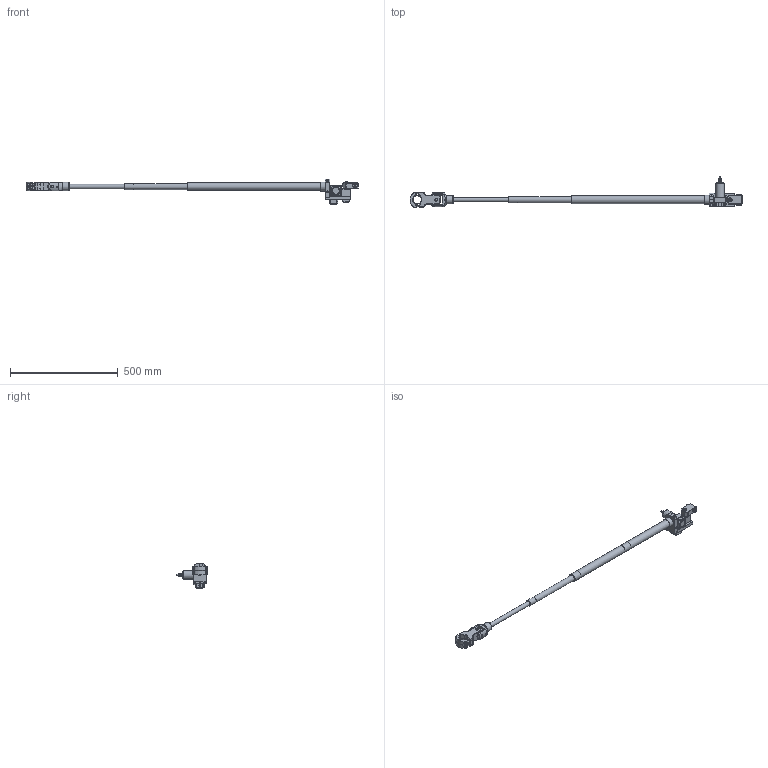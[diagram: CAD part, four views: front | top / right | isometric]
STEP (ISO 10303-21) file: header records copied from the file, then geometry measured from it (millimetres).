
FILE_DESCRIPTION( ( 'Unknown' ), '1' );
FILE_NAME( 'E:/0 Travail/0 Travaux en cours/Doga/Assemblage 2014/BIBLIOTEQUE 3D/Assemblage 2011/11-42-3671 JOHNSON/4-1200592-bras DMF 80 LPC_2000/4-1200592-bras DMF 80 LPC_2000.stp', 'Unknown', ( 'Unknown' ), ( 'Unknown' ), 'PSStep 14.0', 'Unknown', ' ' );
FILE_SCHEMA( ( 'AUTOMOTIVE_DESIGN { 1 0 10303 214 1 1 1 1 }' ) );
Length unit declared in the file: millimetre
Products named in the file (60): Asm Pince spéciale; Collier BA100; Collier BA100-oa1; CHC M6x45 fileté sous tete; CHC M6x45 fileté sous tete-oa2; CHC M6x45 fileté sous tete-oa3; CHC M6x45 fileté sous tete-oa4; Placement; Pince DMF80; Tube 36-32 pour DMF80-2000 LPC ; Tube 28.2x31.8; bague de serrage pour DMF80 PC; Tube 32x36 pour DMF80-2000 LPC ; Jonc 20 avec chape pour DMF80-2000 LPC ; Tube 20.2x24.8; Chape pour pince premium; axe chape premium; Jonc 20 pour DMF80-2000 LPC ; Tube 28-25 pour DMF80-2000 LPC ; Tube 20.2x24.8-oa5; Tube 28.2x31.8-oa6; Tube 25x28 pour DMF80-2000 LPC ; axe dia16 pour capteur d'angle assemblé DMF30 PC; Aimant; Rondelle AS1226; Rondelle AS1226-oa0; Butée à aiguilles AXK1226; Anneau élastique pour arbre 12; Axe Ø16 pour DMF30 PC ; SX50-1250-10V-KA-M4; SX50-1250-10V-KA-M4_12; SX50-1250-10V-KA-M4_13; SX50-1250-10V-KA-M4_10; SX50-1250-10V-KA-M4_11; SX50-1250-10V-KA-M4_14; SX50-1250-10V-KA-M4_15; SX50-1250-10V-KA-M4_1; SX50-1250-10V-KA-M4_7; SX50-1250-10V-KA-M4_4; SX50-1250-10V-KA-M4_2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
Assembly tree (61 placements, depth 4):
  Assem1
    fourreau  pour DMF30 PC
    Capteur de position angulaire QUADRO-R
    Boitier de dérivation
    Rondelle AS1730  x2
    Butée à aiguilles AXK1730
    Roulement à aiguilles HK1616  x2
    platine fixation carbone pour DMF80 PC
    platine support capteur DMF80 PC
    support fixation bras DMF30 et 80 LAPC
    Rondelle pour axe équerre DMF30 et 80 APC
    06 L
    CHC M6x12
    Axe pour équerre DMF 30 et 80 APC
    SX50-1250-10V-KA-M4
      SX50-1250-10V-KA-M4_12
      SX50-1250-10V-KA-M4_13
      SX50-1250-10V-KA-M4_10
      SX50-1250-10V-KA-M4_11
      SX50-1250-10V-KA-M4_14
      SX50-1250-10V-KA-M4_15
      SX50-1250-10V-KA-M4_1
      SX50-1250-10V-KA-M4_7
      SX50-1250-10V-KA-M4
      SX50-1250-10V-KA-M4_4
      SX50-1250-10V-KA-M4_2
      SX50-1250-10V-KA-M4_3
      SX50-1250-10V-KA-M4_6
      SX50-1250-10V-KA-M4_5
      SX50-1250-10V-KA-M4_16
    axe dia16 pour capteur d'angle assemblé DMF30 PC
      Aimant
      Rondelle AS1226
      Rondelle AS1226-oa0
      Butée à aiguilles AXK1226
      Anneau élastique pour arbre 12
      Axe Ø16 pour DMF30 PC 
    sous ensemble carbone pour DMF80-2000 LPC
      Asm Pince spéciale
        Collier BA100
        Collier BA100-oa1
        CHC M6x45 fileté sous tete
        CHC M6x45 fileté sous tete-oa2
        CHC M6x45 fileté sous tete-oa3
        CHC M6x45 fileté sous tete-oa4
        Placement
        Pince DMF80
      Jonc 20 avec chape pour DMF80-2000 LPC 
        Tube 20.2x24.8
        Chape pour pince premium
        axe chape premium
        Jonc 20 pour DMF80-2000 LPC 
      Tube 36-32 pour DMF80-2000 LPC 
        Tube 28.2x31.8
        bague de serrage pour DMF80 PC
        Tube 32x36 pour DMF80-2000 LPC 
      Tube 28-25 pour DMF80-2000 LPC 
        Tube 20.2x24.8-oa5
        Tube 28.2x31.8-oa6
        Tube 25x28 pour DMF80-2000 LPC 
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Bounding box: 1539.29 x 142 x 118.7 mm (x, y, z)
Volume: 1083829.7 mm3; surface area: 530677.7 mm2
Topology: 39 solids, 208 shells, 1172 faces, 3423 edges, 2470 vertices
Faces by surface type: plane 557, cylinder 479, cone 100, torus 15, revolution 14, bspline 5, sphere 2
Full cylindrical faces by diameter (mm): 1 x2, 1.221 x1, 2.459 x7, 2.5 x4, 3.2 x5, 3.242 x2, 3.5 x1, 4.134 x12, 4.3 x2, 4.5 x1, 4.917 x12, 5 x5, 5.2 x7, 5.8 x5, 6 x11, 6.2 x5, 6.5 x4, 6.647 x3, 7 x3, 8 x2, 8.2 x2, 8.5 x1, 9 x4, 9.3 x1, 10 x6, 10.5 x3, 11.5 x1, 12 x16, 13 x2, 14 x1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
Entity records: 56670 total; most frequent: CARTESIAN_POINT 19533, DIRECTION 5448, ORIENTED_EDGE 5032, EDGE_CURVE 3015, VERTEX_POINT 2367, AXIS2_PLACEMENT_3D 2109, EDGE_LOOP 1646, LINE 1216
